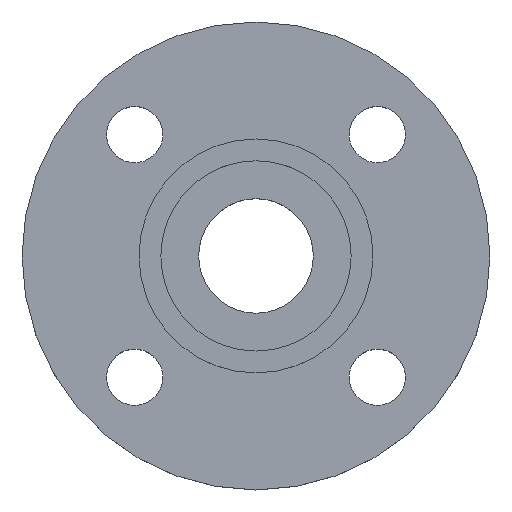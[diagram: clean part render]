
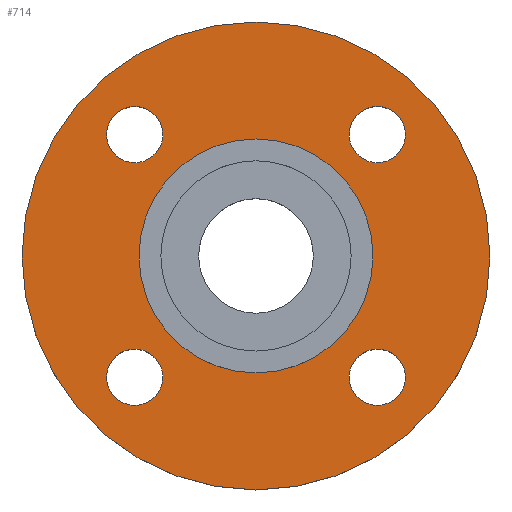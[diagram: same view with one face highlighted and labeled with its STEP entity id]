
A CAD part, top view. The second image highlights one B-rep face of the part: STEP entity #714.
In plain terms, the highlighted planar face has unit normal (0, 0, 1).
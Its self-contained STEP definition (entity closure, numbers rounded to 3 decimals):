
#3 = AXIS2_PLACEMENT_3D ( 'NONE', #752, #753, #754 ) ;
#6 = EDGE_CURVE ( 'NONE', #513, #509, #623, .T. ) ;
#41 = CIRCLE ( 'NONE', #43, 9. ) ;
#43 = AXIS2_PLACEMENT_3D ( 'NONE', #798, #800, #802 ) ;
#57 = CARTESIAN_POINT ( 'NONE',  ( 37.5, 0., -4.5 ) ) ;
#61 = AXIS2_PLACEMENT_3D ( 'NONE', #211, #212, #214 ) ;
#76 = DIRECTION ( 'NONE',  ( 1., 0., 0. ) ) ;
#77 = DIRECTION ( 'NONE',  ( 0., 0., -1. ) ) ;
#78 = EDGE_CURVE ( 'NONE', #509, #513, #347, .T. ) ;
#81 = CARTESIAN_POINT ( 'NONE',  ( -38.891, -38.891, -4.5 ) ) ;
#85 = AXIS2_PLACEMENT_3D ( 'NONE', #764, #765, #766 ) ;
#99 = AXIS2_PLACEMENT_3D ( 'NONE', #139, #138, #137 ) ;
#101 = DIRECTION ( 'NONE',  ( 1., 0., 0. ) ) ;
#102 = PLANE ( 'NONE',  #385 ) ;
#104 = FACE_OUTER_BOUND ( 'NONE', #514, .T. ) ;
#106 = CIRCLE ( 'NONE', #472, 37.5 ) ;
#107 = FACE_BOUND ( 'NONE', #491, .T. ) ;
#109 = FACE_BOUND ( 'NONE', #492, .T. ) ;
#110 = DIRECTION ( 'NONE',  ( 0., 0., 1. ) ) ;
#111 = FACE_BOUND ( 'NONE', #496, .T. ) ;
#112 = FACE_BOUND ( 'NONE', #500, .T. ) ;
#113 = FACE_BOUND ( 'NONE', #603, .T. ) ;
#121 = CARTESIAN_POINT ( 'NONE',  ( 29.891, -38.891, -4.5 ) ) ;
#127 = CARTESIAN_POINT ( 'NONE',  ( 37.5, 0., -4.5 ) ) ;
#128 = CIRCLE ( 'NONE', #99, 9. ) ;
#131 = EDGE_CURVE ( 'NONE', #516, #519, #282, .T. ) ;
#137 = DIRECTION ( 'NONE',  ( 1., 0., 0. ) ) ;
#138 = DIRECTION ( 'NONE',  ( 0., 0., -1. ) ) ;
#139 = CARTESIAN_POINT ( 'NONE',  ( 38.891, -38.891, -4.5 ) ) ;
#161 = AXIS2_PLACEMENT_3D ( 'NONE', #215, #217, #218 ) ;
#164 = CIRCLE ( 'NONE', #329, 9. ) ;
#165 = DIRECTION ( 'NONE',  ( -1., 0., 0. ) ) ;
#166 = DIRECTION ( 'NONE',  ( 0., 0., -1. ) ) ;
#169 = CARTESIAN_POINT ( 'NONE',  ( 0., 0., -4.5 ) ) ;
#208 = EDGE_CURVE ( 'NONE', #530, #493, #41, .T. ) ;
#211 = CARTESIAN_POINT ( 'NONE',  ( 0., 0., -4.5 ) ) ;
#212 = DIRECTION ( 'NONE',  ( 0., 0., -1. ) ) ;
#214 = DIRECTION ( 'NONE',  ( -1., 0., 0. ) ) ;
#215 = CARTESIAN_POINT ( 'NONE',  ( 0., 0., -4.5 ) ) ;
#217 = DIRECTION ( 'NONE',  ( 0., 0., -1. ) ) ;
#218 = DIRECTION ( 'NONE',  ( -1., 0., 0. ) ) ;
#223 = CIRCLE ( 'NONE', #226, 9. ) ;
#226 = AXIS2_PLACEMENT_3D ( 'NONE', #299, #300, #301 ) ;
#240 = CARTESIAN_POINT ( 'NONE',  ( -38.891, 38.891, -4.5 ) ) ;
#241 = DIRECTION ( 'NONE',  ( 0., 0., -1. ) ) ;
#243 = DIRECTION ( 'NONE',  ( 1., 0., 0. ) ) ;
#258 = EDGE_CURVE ( 'NONE', #489, #688, #466, .T. ) ;
#260 = EDGE_CURVE ( 'NONE', #519, #516, #445, .T. ) ;
#282 = CIRCLE ( 'NONE', #85, 75. ) ;
#289 = CIRCLE ( 'NONE', #451, 9. ) ;
#299 = CARTESIAN_POINT ( 'NONE',  ( 38.891, -38.891, -4.5 ) ) ;
#300 = DIRECTION ( 'NONE',  ( 0., 0., -1. ) ) ;
#301 = DIRECTION ( 'NONE',  ( 1., 0., 0. ) ) ;
#302 = CARTESIAN_POINT ( 'NONE',  ( -38.891, 38.891, -4.5 ) ) ;
#306 = EDGE_CURVE ( 'NONE', #522, #483, #164, .T. ) ;
#307 = DIRECTION ( 'NONE',  ( 0., 0., -1. ) ) ;
#310 = DIRECTION ( 'NONE',  ( 1., 0., 0. ) ) ;
#329 = AXIS2_PLACEMENT_3D ( 'NONE', #240, #241, #243 ) ;
#339 = CARTESIAN_POINT ( 'NONE',  ( 29.891, 38.891, -4.5 ) ) ;
#340 = CARTESIAN_POINT ( 'NONE',  ( 47.891, 38.891, -4.5 ) ) ;
#347 = CIRCLE ( 'NONE', #3, 9. ) ;
#374 = CARTESIAN_POINT ( 'NONE',  ( 75., 0., -4.5 ) ) ;
#385 = AXIS2_PLACEMENT_3D ( 'NONE', #57, #110, #101 ) ;
#397 = CARTESIAN_POINT ( 'NONE',  ( -75., 0., -4.5 ) ) ;
#400 = CARTESIAN_POINT ( 'NONE',  ( -47.891, 38.891, -4.5 ) ) ;
#407 = CARTESIAN_POINT ( 'NONE',  ( -47.891, -38.891, -4.5 ) ) ;
#410 = CARTESIAN_POINT ( 'NONE',  ( -37.5, 0., -4.5 ) ) ;
#411 = CIRCLE ( 'NONE', #417, 9. ) ;
#412 = CARTESIAN_POINT ( 'NONE',  ( -29.891, -38.891, -4.5 ) ) ;
#416 = EDGE_CURVE ( 'NONE', #692, #539, #223, .T. ) ;
#417 = AXIS2_PLACEMENT_3D ( 'NONE', #81, #77, #76 ) ;
#418 = EDGE_CURVE ( 'NONE', #483, #522, #289, .T. ) ;
#421 = CARTESIAN_POINT ( 'NONE',  ( 47.891, -38.891, -4.5 ) ) ;
#426 = CARTESIAN_POINT ( 'NONE',  ( -29.891, 38.891, -4.5 ) ) ;
#445 = CIRCLE ( 'NONE', #161, 75. ) ;
#447 = AXIS2_PLACEMENT_3D ( 'NONE', #702, #703, #705 ) ;
#451 = AXIS2_PLACEMENT_3D ( 'NONE', #302, #307, #310 ) ;
#466 = CIRCLE ( 'NONE', #61, 37.5 ) ;
#472 = AXIS2_PLACEMENT_3D ( 'NONE', #169, #166, #165 ) ;
#483 = VERTEX_POINT ( 'NONE', #426 ) ;
#489 = VERTEX_POINT ( 'NONE', #410 ) ;
#491 = EDGE_LOOP ( 'NONE', ( #592, #593 ) ) ;
#492 = EDGE_LOOP ( 'NONE', ( #589, #591 ) ) ;
#493 = VERTEX_POINT ( 'NONE', #407 ) ;
#496 = EDGE_LOOP ( 'NONE', ( #633, #508 ) ) ;
#500 = EDGE_LOOP ( 'NONE', ( #588, #684 ) ) ;
#508 = ORIENTED_EDGE ( 'NONE', *, *, #306, .T. ) ;
#509 = VERTEX_POINT ( 'NONE', #339 ) ;
#513 = VERTEX_POINT ( 'NONE', #340 ) ;
#514 = EDGE_LOOP ( 'NONE', ( #594, #595 ) ) ;
#516 = VERTEX_POINT ( 'NONE', #374 ) ;
#519 = VERTEX_POINT ( 'NONE', #397 ) ;
#522 = VERTEX_POINT ( 'NONE', #400 ) ;
#530 = VERTEX_POINT ( 'NONE', #412 ) ;
#539 = VERTEX_POINT ( 'NONE', #421 ) ;
#585 = ORIENTED_EDGE ( 'NONE', *, *, #679, .T. ) ;
#587 = ORIENTED_EDGE ( 'NONE', *, *, #416, .T. ) ;
#588 = ORIENTED_EDGE ( 'NONE', *, *, #208, .T. ) ;
#589 = ORIENTED_EDGE ( 'NONE', *, *, #6, .T. ) ;
#591 = ORIENTED_EDGE ( 'NONE', *, *, #78, .T. ) ;
#592 = ORIENTED_EDGE ( 'NONE', *, *, #258, .T. ) ;
#593 = ORIENTED_EDGE ( 'NONE', *, *, #630, .T. ) ;
#594 = ORIENTED_EDGE ( 'NONE', *, *, #131, .F. ) ;
#595 = ORIENTED_EDGE ( 'NONE', *, *, #260, .F. ) ;
#603 = EDGE_LOOP ( 'NONE', ( #585, #587 ) ) ;
#623 = CIRCLE ( 'NONE', #447, 9. ) ;
#630 = EDGE_CURVE ( 'NONE', #688, #489, #106, .T. ) ;
#633 = ORIENTED_EDGE ( 'NONE', *, *, #418, .T. ) ;
#679 = EDGE_CURVE ( 'NONE', #539, #692, #128, .T. ) ;
#684 = ORIENTED_EDGE ( 'NONE', *, *, #784, .T. ) ;
#688 = VERTEX_POINT ( 'NONE', #127 ) ;
#692 = VERTEX_POINT ( 'NONE', #121 ) ;
#702 = CARTESIAN_POINT ( 'NONE',  ( 38.891, 38.891, -4.5 ) ) ;
#703 = DIRECTION ( 'NONE',  ( 0., 0., -1. ) ) ;
#705 = DIRECTION ( 'NONE',  ( 1., 0., 0. ) ) ;
#714 = ADVANCED_FACE ( 'NONE', ( #113, #112, #111, #109, #107, #104 ), #102, .T. ) ;
#752 = CARTESIAN_POINT ( 'NONE',  ( 38.891, 38.891, -4.5 ) ) ;
#753 = DIRECTION ( 'NONE',  ( 0., 0., -1. ) ) ;
#754 = DIRECTION ( 'NONE',  ( 1., 0., 0. ) ) ;
#764 = CARTESIAN_POINT ( 'NONE',  ( 0., 0., -4.5 ) ) ;
#765 = DIRECTION ( 'NONE',  ( 0., 0., -1. ) ) ;
#766 = DIRECTION ( 'NONE',  ( -1., 0., 0. ) ) ;
#784 = EDGE_CURVE ( 'NONE', #493, #530, #411, .T. ) ;
#798 = CARTESIAN_POINT ( 'NONE',  ( -38.891, -38.891, -4.5 ) ) ;
#800 = DIRECTION ( 'NONE',  ( 0., 0., -1. ) ) ;
#802 = DIRECTION ( 'NONE',  ( 1., 0., 0. ) ) ;
